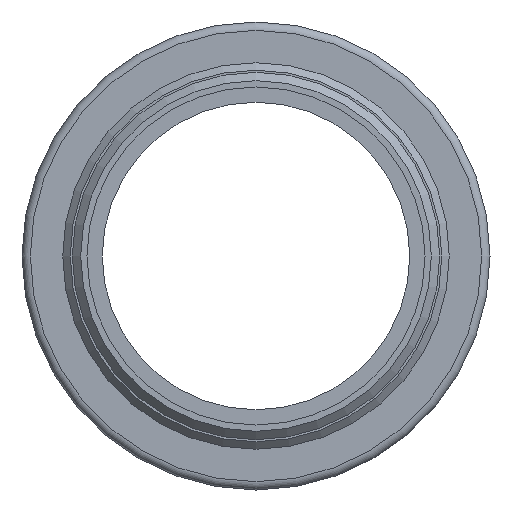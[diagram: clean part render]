
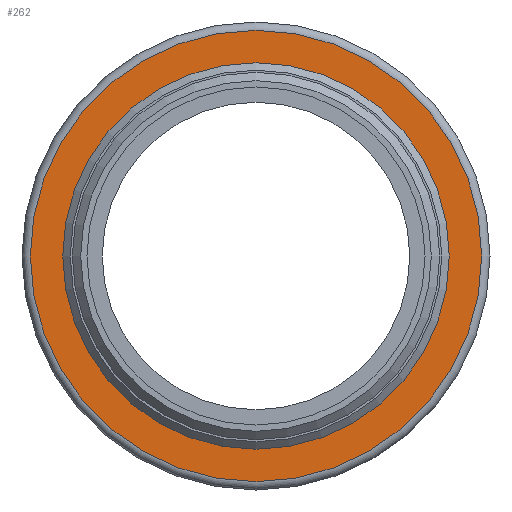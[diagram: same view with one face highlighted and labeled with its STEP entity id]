
A CAD part, front view. The second image highlights one B-rep face of the part: STEP entity #262.
In plain terms, the highlighted planar face has unit normal (0, -1, 0).
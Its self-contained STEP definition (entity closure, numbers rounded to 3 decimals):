
#42=PLANE('',#334);
#86=ORIENTED_EDGE('',*,*,#107,.F.);
#87=ORIENTED_EDGE('',*,*,#113,.T.);
#107=EDGE_CURVE('',#128,#128,#149,.T.);
#113=EDGE_CURVE('',#134,#134,#155,.T.);
#128=VERTEX_POINT('',#473);
#134=VERTEX_POINT('',#489);
#149=CIRCLE('',#323,46.25);
#155=CIRCLE('',#333,54.);
#191=EDGE_LOOP('',(#86));
#192=EDGE_LOOP('',(#87));
#233=FACE_BOUND('',#191,.T.);
#234=FACE_BOUND('',#192,.T.);
#262=ADVANCED_FACE('',(#233,#234),#42,.T.);
#323=AXIS2_PLACEMENT_3D('',#472,#395,#396);
#333=AXIS2_PLACEMENT_3D('',#488,#415,#416);
#334=AXIS2_PLACEMENT_3D('',#490,#417,#418);
#395=DIRECTION('',(0.,-1.,0.));
#396=DIRECTION('',(0.,0.,-1.));
#415=DIRECTION('',(0.,-1.,0.));
#416=DIRECTION('',(0.,0.,-1.));
#417=DIRECTION('',(0.,-1.,0.));
#418=DIRECTION('',(0.,0.,-1.));
#472=CARTESIAN_POINT('',(0.,0.,0.));
#473=CARTESIAN_POINT('',(0.,0.,-46.25));
#488=CARTESIAN_POINT('',(0.,0.,0.));
#489=CARTESIAN_POINT('',(0.,0.,-54.));
#490=CARTESIAN_POINT('',(0.,0.,44.45));
